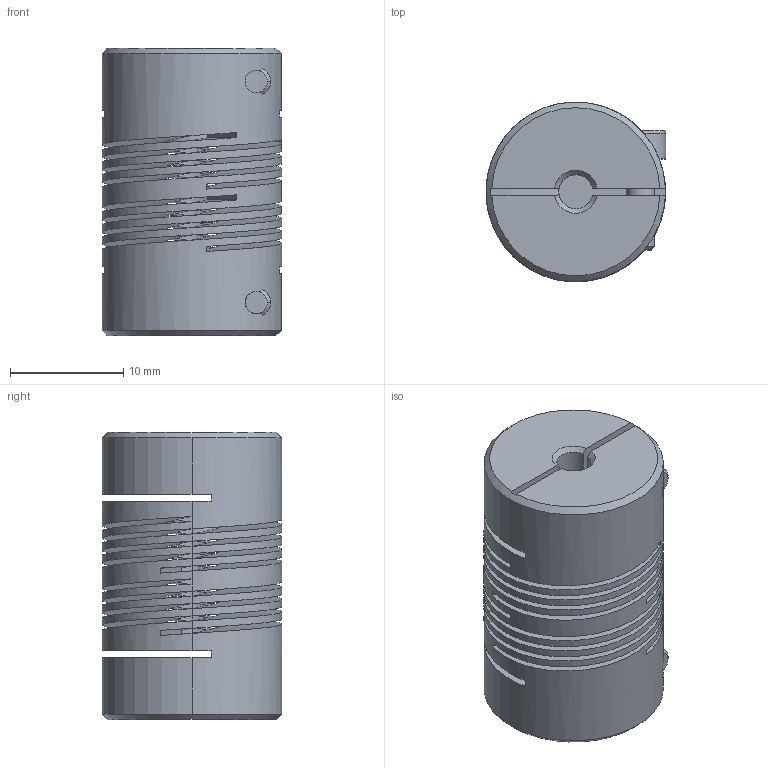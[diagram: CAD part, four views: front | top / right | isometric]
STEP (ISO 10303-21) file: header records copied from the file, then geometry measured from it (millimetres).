
FILE_DESCRIPTION((''),'2;1');
FILE_NAME('_CGS_TEMP_IGS','2026-02-24T',('SYSTEM'),(''),'PRO/ENGINEER BY PARAMETRIC TECHNOLOGY CORPORATION, 2016360','PRO/ENGINEER BY PARAMETRIC TECHNOLOGY CORPORATION, 2016360','');
FILE_SCHEMA(('AUTOMOTIVE_DESIGN { 1 0 10303 214 1 1 1 1 }'));
Length unit declared in the file: inch
Products named in the file (1): _CGS_TEMP_IGS
Bounding box: 15.87 x 15.83 x 25.4 mm (x, y, z)
Volume: 147.7 mm3; surface area: 5677.5 mm2
Topology: 2 solids, 3 shells, 145 faces, 431 edges, 282 vertices
Faces by surface type: cylinder 57, plane 54, cone 14, bspline 12, torus 8
Entity records: 8212 total; most frequent: CARTESIAN_POINT 3616, ORIENTED_EDGE 850, DIRECTION 671, EDGE_CURVE 427, VERTEX_POINT 282, AXIS2_PLACEMENT_3D 244, VECTOR 183, LINE 183
